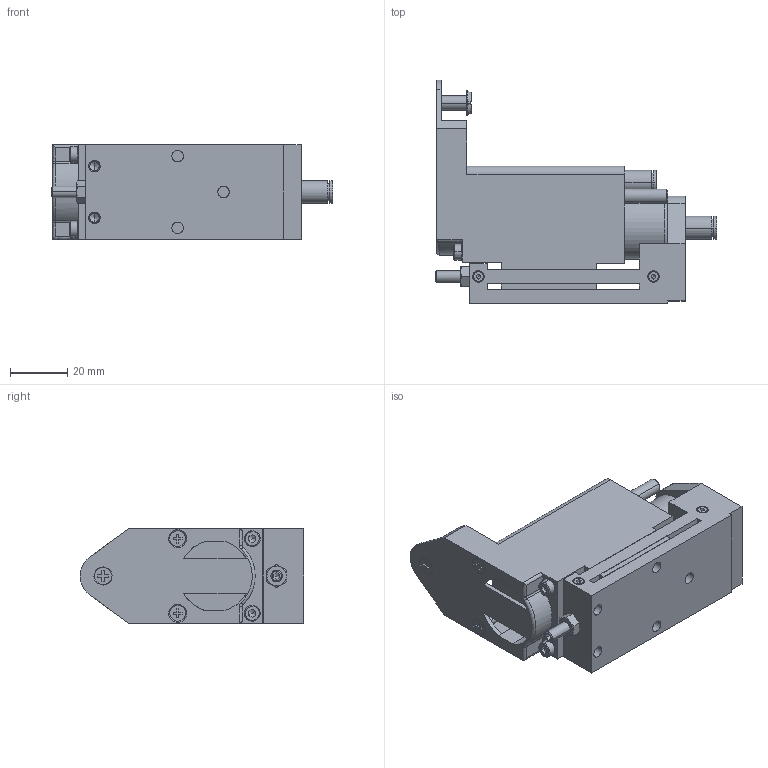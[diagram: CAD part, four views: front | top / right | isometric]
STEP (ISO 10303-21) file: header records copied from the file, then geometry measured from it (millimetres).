
FILE_DESCRIPTION(('STEP AP214'),'1');
FILE_NAME('CA.SNP10.stp','2018-09-20T11:48:40',(' '),(' '),'Spatial InterOp 3D',' ',' ');
FILE_SCHEMA(('AUTOMOTIVE_DESIGN { 1 0 10303 214 1 1 1 1 }'));
Length unit declared in the file: millimetre
Products named in the file (7): CA.SNP10; SNP10_O___}3D_50; SNP10_O___}3D_48; SNP10_O___}3D_46; SNP10_O___}3D_44; SNP10_O___}3D_42; SNP10_O___}3D_40
Assembly tree (6 placements, depth 2):
  CA.SNP10
    SNP10_O___}3D_50
    SNP10_O___}3D_48
    SNP10_O___}3D_46
    SNP10_O___}3D_44
    SNP10_O___}3D_42
    SNP10_O___}3D_40
Bounding box: 98 x 78 x 33 mm (x, y, z)
Volume: 108143.3 mm3; surface area: 33156.9 mm2
Topology: 6 solids, 6 shells, 663 faces, 1853 edges, 1226 vertices
Faces by surface type: bspline 663
Entity records: 26520 total; most frequent: CARTESIAN_POINT 10852, ORIENTED_EDGE 3634, EDGE_CURVE 1817, VERTEX_POINT 1226, B_SPLINE_CURVE_WITH_KNOTS 962, EDGE_LOOP 751, STYLED_ITEM 663, PRESENTATION_STYLE_ASSIGNMENT 663
